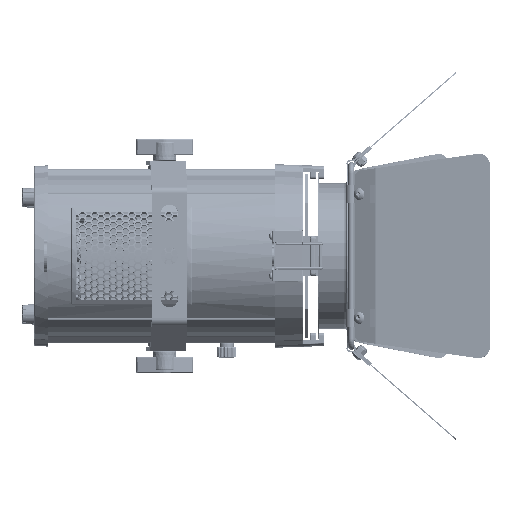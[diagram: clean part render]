
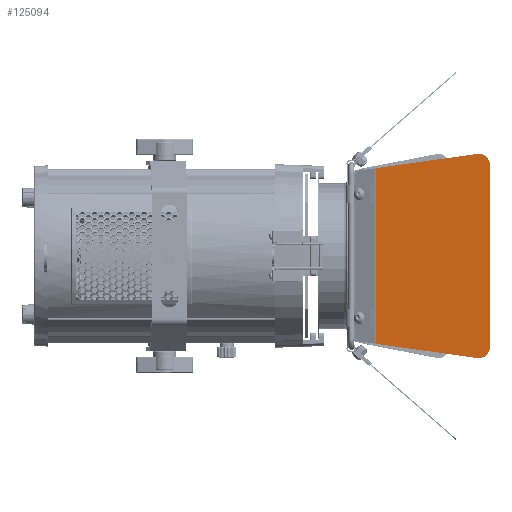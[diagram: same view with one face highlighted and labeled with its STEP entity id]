
A CAD part, left-side view. The second image highlights one B-rep face of the part: STEP entity #125094.
In plain terms, the highlighted planar face has unit normal (-0.993, 0.118, 0) as drawn and (0, 0, -1) by its records, which use the part's own axes.
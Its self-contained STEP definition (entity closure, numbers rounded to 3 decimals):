
#124627=CARTESIAN_POINT('',(-32.5,-63.797,0.));
#124628=DIRECTION('',(0.,0.,-1.));
#124629=DIRECTION('',(0.139,-0.99,0.));
#124630=AXIS2_PLACEMENT_3D('',#124627,#124628,#124629);
#124635=DIRECTION('',(-0.99,-0.139,0.));
#124636=VECTOR('',#124635,72.385);
#124637=CARTESIAN_POINT('',(40.294,-61.645,0.));
#124638=LINE('',#124637,#124636);
#124642=DIRECTION('',(0.,-1.,0.));
#124643=VECTOR('',#124642,123.29);
#124644=CARTESIAN_POINT('',(40.294,61.645,0.));
#124645=LINE('',#124644,#124643);
#124649=DIRECTION('',(-0.99,0.139,0.));
#124650=VECTOR('',#124649,72.385);
#124651=CARTESIAN_POINT('',(40.294,61.645,0.));
#124652=LINE('',#124651,#124650);
#124656=CARTESIAN_POINT('',(-32.5,63.797,0.));
#124657=DIRECTION('',(0.,0.,-1.));
#124658=DIRECTION('',(-1.,0.,0.));
#124659=AXIS2_PLACEMENT_3D('',#124656,#124657,#124658);
#124671=DIRECTION('',(0.,1.,0.));
#124672=VECTOR('',#124671,127.594);
#124673=CARTESIAN_POINT('',(-40.5,-63.797,0.));
#124674=LINE('',#124673,#124672);
#124713=CARTESIAN_POINT('',(40.294,61.645,0.));
#124723=CARTESIAN_POINT('',(40.294,-61.645,0.));
#125019=VERTEX_POINT('',#124713);
#125021=VERTEX_POINT('',#124723);
#125027=CARTESIAN_POINT('',(-31.387,-71.719,0.));
#125028=CARTESIAN_POINT('',(-40.5,-63.797,0.));
#125029=VERTEX_POINT('',#125027);
#125030=VERTEX_POINT('',#125028);
#125035=CARTESIAN_POINT('',(-40.5,63.797,0.));
#125036=CARTESIAN_POINT('',(-31.387,71.719,0.));
#125037=VERTEX_POINT('',#125035);
#125038=VERTEX_POINT('',#125036);
#125075=CARTESIAN_POINT('',(40.5,-73.,0.));
#125076=DIRECTION('',(0.,0.,-1.));
#125077=DIRECTION('',(-1.,0.,0.));
#125078=AXIS2_PLACEMENT_3D('',#125075,#125076,#125077);
#125079=PLANE('',#125078);
#125081=ORIENTED_EDGE('',*,*,#125080,.F.);
#125083=ORIENTED_EDGE('',*,*,#125082,.F.);
#125085=ORIENTED_EDGE('',*,*,#125084,.F.);
#125087=ORIENTED_EDGE('',*,*,#125086,.T.);
#125089=ORIENTED_EDGE('',*,*,#125088,.F.);
#125091=ORIENTED_EDGE('',*,*,#125090,.F.);
#125092=EDGE_LOOP('',(#125081,#125083,#125085,#125087,#125089,#125091));
#125093=FACE_OUTER_BOUND('',#125092,.F.);
#124631=CIRCLE('',#124630,8.);
#124660=CIRCLE('',#124659,8.);
#125080=EDGE_CURVE('',#125029,#125030,#124631,.T.);
#125082=EDGE_CURVE('',#125021,#125029,#124638,.T.);
#125084=EDGE_CURVE('',#125019,#125021,#124645,.T.);
#125086=EDGE_CURVE('',#125019,#125038,#124652,.T.);
#125088=EDGE_CURVE('',#125037,#125038,#124660,.T.);
#125090=EDGE_CURVE('',#125030,#125037,#124674,.T.);
#125094=ADVANCED_FACE('',(#125093),#125079,.T.);
